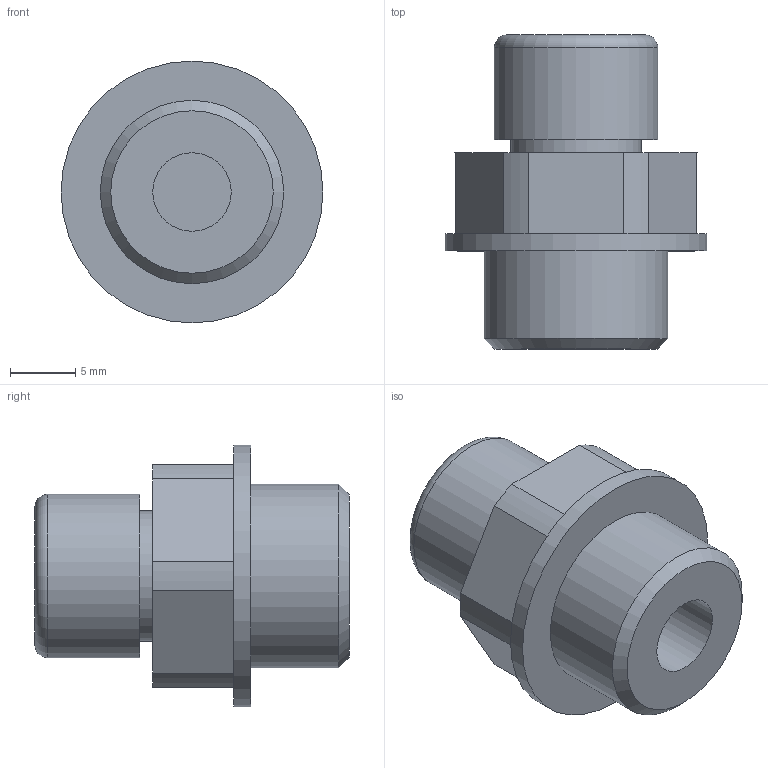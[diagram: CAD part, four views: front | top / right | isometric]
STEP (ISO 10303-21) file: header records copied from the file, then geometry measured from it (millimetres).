
FILE_DESCRIPTION( ( 'STEP AP203' ), '1' );
FILE_NAME( 'C:/Temp/Ganter_Step_05_03_2020/data/3_5/gn883/Breather valve GN 883-M14x1,5-20-B-MS.stp', '2020-03-12T13:42:48', ( 'License CC BY-ND 4.0' ), ( 'CADENAS' ), ' ', 'PARTsolutions', ' ' );
FILE_SCHEMA( ( 'CONFIG_CONTROL_DESIGN' ) );
Length unit declared in the file: millimetre
Products named in the file (1): _Breather valve GN 883-M14x1,5-20-B-MS
Bounding box: 20 x 24 x 20 mm (x, y, z)
Volume: 3798.8 mm3; surface area: 2009.5 mm2
Topology: 1 solids, 1 shells, 26 faces, 56 edges, 37 vertices
Faces by surface type: plane 13, cylinder 11, torus 1, cone 1
Full cylindrical faces by diameter (mm): 6 x1, 10 x1, 12.5 x1, 14 x1, 20 x1
Entity records: 716 total; most frequent: DIRECTION 126, CARTESIAN_POINT 111, ORIENTED_EDGE 96, AXIS2_PLACEMENT_3D 51, EDGE_CURVE 48, EDGE_LOOP 38, VERTEX_POINT 36, FACE_OUTER_BOUND 32
